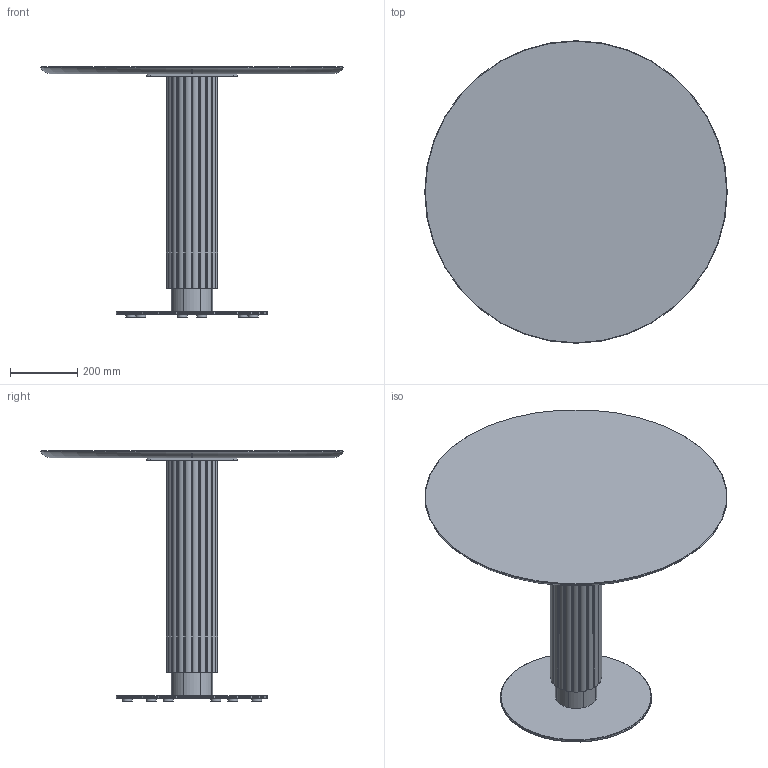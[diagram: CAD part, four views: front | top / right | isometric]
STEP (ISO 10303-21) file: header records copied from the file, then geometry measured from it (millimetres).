
FILE_DESCRIPTION( ('This file contains a STEP AP42 implementation' ,'as created by ZW3D STEP Interface translator.') ,'2;1' );
FILE_NAME( 'God - B_Rond - F1 - M3 - 800 x 800 x 750.stp' ,'24 912.1134 6', (''), ('ZWCAD Software Co.'), 'Version 1.0', 'ZW3D to STEP translator', '' );
FILE_SCHEMA(('AUTOMOTIVE_DESIGN { 1 0 10303 214 1 1 1 1 }'));
Length unit declared in the file: millimetre
Products named in the file (16): 0; PIED BISTROT PARAMETRIQUE_; SOCLE ACIER C Ø450 V.02_; SCL-D450-02_; PLA-R30A-01_; PLA-R30A-01; CROIX ACIER 370 V.02_; CRX-X370-02_; COLONNE ACIER Ø48.5 V.02_; TUB-D048-02_; PLA-R48A-01_; Colonne GODRON H700_; WUERTH 0276063020 Euro-screw 6.3x2 Verzinkt_; PLATEAU BISTROT PARAMETRIQUE_; insert_m6_13_; insert_m6_13
Assembly tree (25 placements, depth 3):
  0
  PIED BISTROT PARAMETRIQUE_
    SOCLE ACIER C Ø450 V.02_
      SCL-D450-02_
      PLA-R30A-01_
      PLA-R30A-01  x5
    CROIX ACIER 370 V.02_
      CRX-X370-02_
    COLONNE ACIER Ø48.5 V.02_
      TUB-D048-02_
      PLA-R48A-01_  x2
    Colonne GODRON H700_
    WUERTH 0276063020 Euro-screw 6.3x2 Verzinkt_
    PLATEAU BISTROT PARAMETRIQUE_
      insert_m6_13_  x2
      insert_m6_13  x6
Bounding box: 900 x 900 x 744 mm (x, y, z)
Volume: 24637887.3 mm3; surface area: 3044768.2 mm2
Topology: 29 solids, 29 shells, 656 faces, 1625 edges, 1042 vertices
Faces by surface type: plane 290, cylinder 197, bspline 121, cone 43, torus 5
Full cylindrical faces by diameter (mm): 4.88 x1, 6 x8, 6.3 x1, 8 x47, 12 x2, 14 x2, 30 x6, 44.5 x3, 48.5 x1, 450 x1
Entity records: 17286 total; most frequent: CARTESIAN_POINT 4453, ORIENTED_EDGE 2374, DIRECTION 2362, EDGE_CURVE 1187, AXIS2_PLACEMENT_3D 841, VERTEX_POINT 768, VECTOR 680, LINE 680
